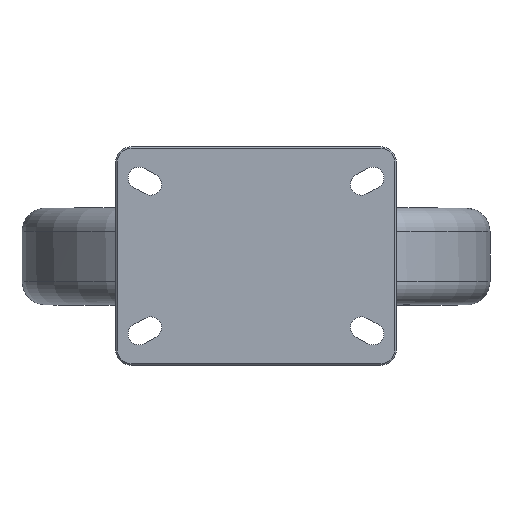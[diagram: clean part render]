
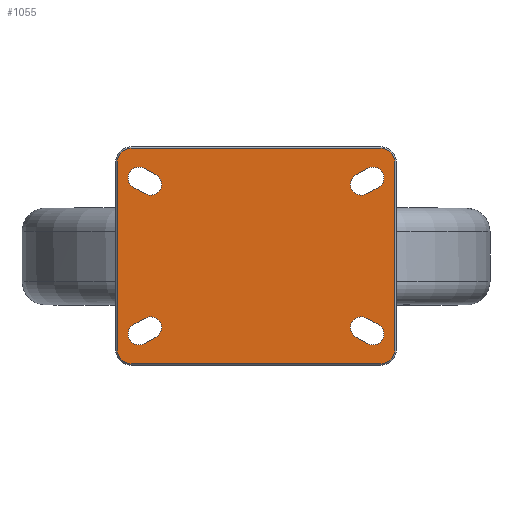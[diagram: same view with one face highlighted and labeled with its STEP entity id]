
A CAD part, top view. The second image highlights one B-rep face of the part: STEP entity #1055.
In plain terms, the highlighted planar face has unit normal (0, 0, 1).
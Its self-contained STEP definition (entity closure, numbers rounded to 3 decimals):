
#1055=ADVANCED_FACE('',(#1965,#1966,#1967,#1968,#1969),#1617,.T.);
#1617=PLANE('',#9301);
#1965=FACE_BOUND('',#2083,.T.);
#1966=FACE_BOUND('',#2084,.T.);
#1967=FACE_BOUND('',#2085,.T.);
#1968=FACE_BOUND('',#2086,.T.);
#1969=FACE_BOUND('',#2087,.T.);
#2083=EDGE_LOOP('',(#3372,#3373,#3374,#3375));
#2084=EDGE_LOOP('',(#3376,#3377,#3378,#3379));
#2085=EDGE_LOOP('',(#3380,#3381,#3382,#3383,#3384,#3385,#3386,#3387));
#2086=EDGE_LOOP('',(#3388,#3389,#3390,#3391));
#2087=EDGE_LOOP('',(#3392,#3393,#3394,#3395));
#2729=CIRCLE('',#9289,7.);
#2730=CIRCLE('',#9290,7.);
#2731=CIRCLE('',#9291,7.);
#2732=CIRCLE('',#9292,7.);
#2733=CIRCLE('',#9293,9.);
#2734=CIRCLE('',#9294,9.);
#2735=CIRCLE('',#9295,9.);
#2736=CIRCLE('',#9296,9.);
#2737=CIRCLE('',#9297,7.);
#2738=CIRCLE('',#9298,7.);
#2739=CIRCLE('',#9299,7.);
#2740=CIRCLE('',#9300,7.);
#3372=ORIENTED_EDGE('',*,*,#6988,.F.);
#3373=ORIENTED_EDGE('',*,*,#6989,.F.);
#3374=ORIENTED_EDGE('',*,*,#6990,.F.);
#3375=ORIENTED_EDGE('',*,*,#6991,.F.);
#3376=ORIENTED_EDGE('',*,*,#6992,.T.);
#3377=ORIENTED_EDGE('',*,*,#6993,.T.);
#3378=ORIENTED_EDGE('',*,*,#6994,.T.);
#3379=ORIENTED_EDGE('',*,*,#6995,.T.);
#3380=ORIENTED_EDGE('',*,*,#6996,.F.);
#3381=ORIENTED_EDGE('',*,*,#6997,.F.);
#3382=ORIENTED_EDGE('',*,*,#6998,.F.);
#3383=ORIENTED_EDGE('',*,*,#6999,.F.);
#3384=ORIENTED_EDGE('',*,*,#7000,.F.);
#3385=ORIENTED_EDGE('',*,*,#7001,.F.);
#3386=ORIENTED_EDGE('',*,*,#7002,.F.);
#3387=ORIENTED_EDGE('',*,*,#7003,.F.);
#3388=ORIENTED_EDGE('',*,*,#7004,.F.);
#3389=ORIENTED_EDGE('',*,*,#7005,.F.);
#3390=ORIENTED_EDGE('',*,*,#7006,.F.);
#3391=ORIENTED_EDGE('',*,*,#7007,.F.);
#3392=ORIENTED_EDGE('',*,*,#7008,.T.);
#3393=ORIENTED_EDGE('',*,*,#7009,.T.);
#3394=ORIENTED_EDGE('',*,*,#7010,.T.);
#3395=ORIENTED_EDGE('',*,*,#7011,.T.);
#6118=VERTEX_POINT('',#13913);
#6119=VERTEX_POINT('',#13914);
#6120=VERTEX_POINT('',#13916);
#6121=VERTEX_POINT('',#13918);
#6122=VERTEX_POINT('',#13921);
#6123=VERTEX_POINT('',#13922);
#6124=VERTEX_POINT('',#13924);
#6125=VERTEX_POINT('',#13926);
#6126=VERTEX_POINT('',#13929);
#6127=VERTEX_POINT('',#13930);
#6128=VERTEX_POINT('',#13932);
#6129=VERTEX_POINT('',#13934);
#6130=VERTEX_POINT('',#13936);
#6131=VERTEX_POINT('',#13938);
#6132=VERTEX_POINT('',#13940);
#6133=VERTEX_POINT('',#13942);
#6134=VERTEX_POINT('',#13945);
#6135=VERTEX_POINT('',#13946);
#6136=VERTEX_POINT('',#13948);
#6137=VERTEX_POINT('',#13950);
#6138=VERTEX_POINT('',#13953);
#6139=VERTEX_POINT('',#13954);
#6140=VERTEX_POINT('',#13956);
#6141=VERTEX_POINT('',#13958);
#6988=EDGE_CURVE('',#6118,#6119,#2729,.T.);
#6989=EDGE_CURVE('',#6120,#6118,#8337,.T.);
#6990=EDGE_CURVE('',#6121,#6120,#2730,.T.);
#6991=EDGE_CURVE('',#6119,#6121,#8338,.T.);
#6992=EDGE_CURVE('',#6122,#6123,#8339,.T.);
#6993=EDGE_CURVE('',#6123,#6124,#2731,.T.);
#6994=EDGE_CURVE('',#6124,#6125,#8340,.T.);
#6995=EDGE_CURVE('',#6125,#6122,#2732,.T.);
#6996=EDGE_CURVE('',#6126,#6127,#2733,.T.);
#6997=EDGE_CURVE('',#6128,#6126,#8341,.T.);
#6998=EDGE_CURVE('',#6129,#6128,#2734,.T.);
#6999=EDGE_CURVE('',#6130,#6129,#8342,.T.);
#7000=EDGE_CURVE('',#6131,#6130,#2735,.T.);
#7001=EDGE_CURVE('',#6132,#6131,#8343,.T.);
#7002=EDGE_CURVE('',#6133,#6132,#2736,.T.);
#7003=EDGE_CURVE('',#6127,#6133,#8344,.T.);
#7004=EDGE_CURVE('',#6134,#6135,#2737,.T.);
#7005=EDGE_CURVE('',#6136,#6134,#8345,.T.);
#7006=EDGE_CURVE('',#6137,#6136,#2738,.T.);
#7007=EDGE_CURVE('',#6135,#6137,#8346,.T.);
#7008=EDGE_CURVE('',#6138,#6139,#8347,.T.);
#7009=EDGE_CURVE('',#6139,#6140,#2739,.T.);
#7010=EDGE_CURVE('',#6140,#6141,#8348,.T.);
#7011=EDGE_CURVE('',#6141,#6138,#2740,.T.);
#8337=LINE('',#13915,#8812);
#8338=LINE('',#13919,#8813);
#8339=LINE('',#13920,#8814);
#8340=LINE('',#13925,#8815);
#8341=LINE('',#13931,#8816);
#8342=LINE('',#13935,#8817);
#8343=LINE('',#13939,#8818);
#8344=LINE('',#13943,#8819);
#8345=LINE('',#13947,#8820);
#8346=LINE('',#13951,#8821);
#8347=LINE('',#13952,#8822);
#8348=LINE('',#13957,#8823);
#8812=VECTOR('',#10693,1.);
#8813=VECTOR('',#10696,1.);
#8814=VECTOR('',#10697,1.);
#8815=VECTOR('',#10700,1.);
#8816=VECTOR('',#10705,1.);
#8817=VECTOR('',#10708,1.);
#8818=VECTOR('',#10711,1.);
#8819=VECTOR('',#10714,1.);
#8820=VECTOR('',#10717,1.);
#8821=VECTOR('',#10720,1.);
#8822=VECTOR('',#10721,1.);
#8823=VECTOR('',#10724,1.);
#9289=AXIS2_PLACEMENT_3D('',#13912,#10691,#10692);
#9290=AXIS2_PLACEMENT_3D('',#13917,#10694,#10695);
#9291=AXIS2_PLACEMENT_3D('',#13923,#10698,#10699);
#9292=AXIS2_PLACEMENT_3D('',#13927,#10701,#10702);
#9293=AXIS2_PLACEMENT_3D('',#13928,#10703,#10704);
#9294=AXIS2_PLACEMENT_3D('',#13933,#10706,#10707);
#9295=AXIS2_PLACEMENT_3D('',#13937,#10709,#10710);
#9296=AXIS2_PLACEMENT_3D('',#13941,#10712,#10713);
#9297=AXIS2_PLACEMENT_3D('',#13944,#10715,#10716);
#9298=AXIS2_PLACEMENT_3D('',#13949,#10718,#10719);
#9299=AXIS2_PLACEMENT_3D('',#13955,#10722,#10723);
#9300=AXIS2_PLACEMENT_3D('',#13959,#10725,#10726);
#9301=AXIS2_PLACEMENT_3D('',#13960,#10727,#10728);
#10691=DIRECTION('',(0.,0.,1.));
#10692=DIRECTION('',(-1.,0.,0.));
#10693=DIRECTION('',(-0.882,0.471,0.));
#10694=DIRECTION('',(0.,0.,1.));
#10695=DIRECTION('',(-1.,0.,0.));
#10696=DIRECTION('',(0.882,-0.471,0.));
#10697=DIRECTION('',(-0.882,-0.471,0.));
#10698=DIRECTION('',(0.,0.,-1.));
#10699=DIRECTION('',(-1.,0.,0.));
#10700=DIRECTION('',(0.882,0.471,0.));
#10701=DIRECTION('',(0.,0.,-1.));
#10702=DIRECTION('',(-1.,0.,0.));
#10703=DIRECTION('',(0.,0.,-1.));
#10704=DIRECTION('',(1.,0.,0.));
#10705=DIRECTION('',(0.,-1.,0.));
#10706=DIRECTION('',(0.,0.,-1.));
#10707=DIRECTION('',(0.,1.,0.));
#10708=DIRECTION('',(1.,0.,0.));
#10709=DIRECTION('',(0.,0.,-1.));
#10710=DIRECTION('',(-1.,0.,0.));
#10711=DIRECTION('',(0.,1.,0.));
#10712=DIRECTION('',(0.,0.,-1.));
#10713=DIRECTION('',(0.,-1.,0.));
#10714=DIRECTION('',(-1.,0.,0.));
#10715=DIRECTION('',(0.,0.,1.));
#10716=DIRECTION('',(1.,0.,0.));
#10717=DIRECTION('',(-0.882,0.471,0.));
#10718=DIRECTION('',(0.,0.,1.));
#10719=DIRECTION('',(1.,0.,0.));
#10720=DIRECTION('',(0.882,-0.471,0.));
#10721=DIRECTION('',(-0.882,-0.471,0.));
#10722=DIRECTION('',(0.,0.,-1.));
#10723=DIRECTION('',(1.,0.,0.));
#10724=DIRECTION('',(0.882,0.471,0.));
#10725=DIRECTION('',(0.,0.,-1.));
#10726=DIRECTION('',(1.,0.,0.));
#10727=DIRECTION('',(0.,0.,1.));
#10728=DIRECTION('',(1.,0.,0.));
#13912=CARTESIAN_POINT('',(67.5,-46.,0.));
#13913=CARTESIAN_POINT('',(70.794,-39.824,0.));
#13914=CARTESIAN_POINT('',(64.206,-52.176,0.));
#13915=CARTESIAN_POINT('',(78.294,-43.824,0.));
#13916=CARTESIAN_POINT('',(78.294,-43.824,0.));
#13917=CARTESIAN_POINT('',(75.,-50.,0.));
#13918=CARTESIAN_POINT('',(71.706,-56.176,0.));
#13919=CARTESIAN_POINT('',(64.206,-52.176,0.));
#13920=CARTESIAN_POINT('',(78.294,43.824,0.));
#13921=CARTESIAN_POINT('',(78.294,43.824,0.));
#13922=CARTESIAN_POINT('',(70.794,39.824,0.));
#13923=CARTESIAN_POINT('',(67.5,46.,0.));
#13924=CARTESIAN_POINT('',(64.206,52.176,0.));
#13925=CARTESIAN_POINT('',(64.206,52.176,0.));
#13926=CARTESIAN_POINT('',(71.706,56.176,0.));
#13927=CARTESIAN_POINT('',(75.,50.,0.));
#13928=CARTESIAN_POINT('',(80.,-60.,0.));
#13929=CARTESIAN_POINT('',(89.,-60.,0.));
#13930=CARTESIAN_POINT('',(80.,-69.,0.));
#13931=CARTESIAN_POINT('',(89.,60.,0.));
#13932=CARTESIAN_POINT('',(89.,60.,0.));
#13933=CARTESIAN_POINT('',(80.,60.,0.));
#13934=CARTESIAN_POINT('',(80.,69.,0.));
#13935=CARTESIAN_POINT('',(-80.,69.,0.));
#13936=CARTESIAN_POINT('',(-80.,69.,0.));
#13937=CARTESIAN_POINT('',(-80.,60.,0.));
#13938=CARTESIAN_POINT('',(-89.,60.,0.));
#13939=CARTESIAN_POINT('',(-89.,-60.,0.));
#13940=CARTESIAN_POINT('',(-89.,-60.,0.));
#13941=CARTESIAN_POINT('',(-80.,-60.,0.));
#13942=CARTESIAN_POINT('',(-80.,-69.,0.));
#13943=CARTESIAN_POINT('',(80.,-69.,0.));
#13944=CARTESIAN_POINT('',(-75.,50.,0.));
#13945=CARTESIAN_POINT('',(-71.706,56.176,0.));
#13946=CARTESIAN_POINT('',(-78.294,43.824,0.));
#13947=CARTESIAN_POINT('',(-64.206,52.176,0.));
#13948=CARTESIAN_POINT('',(-64.206,52.176,0.));
#13949=CARTESIAN_POINT('',(-67.5,46.,0.));
#13950=CARTESIAN_POINT('',(-70.794,39.824,0.));
#13951=CARTESIAN_POINT('',(-78.294,43.824,0.));
#13952=CARTESIAN_POINT('',(-64.206,-52.176,0.));
#13953=CARTESIAN_POINT('',(-64.206,-52.176,0.));
#13954=CARTESIAN_POINT('',(-71.706,-56.176,0.));
#13955=CARTESIAN_POINT('',(-75.,-50.,0.));
#13956=CARTESIAN_POINT('',(-78.294,-43.824,0.));
#13957=CARTESIAN_POINT('',(-78.294,-43.824,0.));
#13958=CARTESIAN_POINT('',(-70.794,-39.824,0.));
#13959=CARTESIAN_POINT('',(-67.5,-46.,0.));
#13960=CARTESIAN_POINT('',(0.,0.,
0.));
